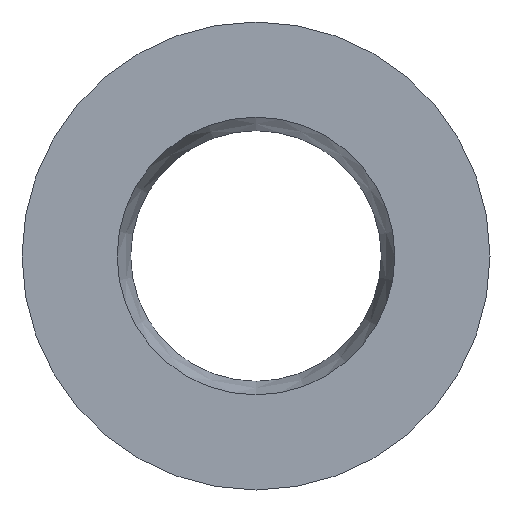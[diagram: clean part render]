
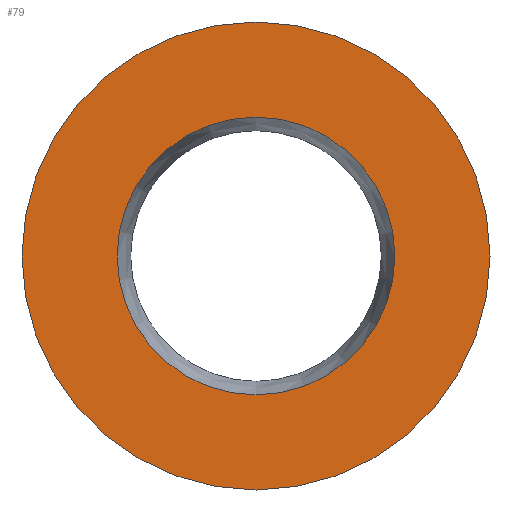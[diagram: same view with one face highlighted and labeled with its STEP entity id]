
A CAD part, front view. The second image highlights one B-rep face of the part: STEP entity #79.
In plain terms, the highlighted planar face has unit normal (0, -1, 0).
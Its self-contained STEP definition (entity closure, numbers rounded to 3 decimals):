
#79 = ADVANCED_FACE( '', ( #94, #95 ), #96, .T. );
#94 = FACE_OUTER_BOUND( '', #112, .T. );
#95 = FACE_BOUND( '', #113, .T. );
#96 = PLANE( '', #114 );
#112 = EDGE_LOOP( '', ( #138 ) );
#113 = EDGE_LOOP( '', ( #139 ) );
#114 = AXIS2_PLACEMENT_3D( '', #140, #141, #142 );
#138 = ORIENTED_EDGE( '', *, *, #153, .T. );
#139 = ORIENTED_EDGE( '', *, *, #152, .F. );
#140 = CARTESIAN_POINT( '', ( 3.5, 0., 0. ) );
#141 = DIRECTION( '', ( 0., -1., 0. ) );
#142 = DIRECTION( '', ( 0., 0., -1. ) );
#152 = EDGE_CURVE( '', #162, #162, #163, .T. );
#153 = EDGE_CURVE( '', #164, #164, #165, .T. );
#162 = VERTEX_POINT( '', #174 );
#163 = CIRCLE( '', #175, 3.5 );
#164 = VERTEX_POINT( '', #176 );
#165 = CIRCLE( '', #177, 5.9 );
#174 = CARTESIAN_POINT( '', ( 0., 0., -3.5 ) );
#175 = AXIS2_PLACEMENT_3D( '', #190, #191, #192 );
#176 = CARTESIAN_POINT( '', ( 0., 0., -5.9 ) );
#177 = AXIS2_PLACEMENT_3D( '', #193, #194, #195 );
#190 = CARTESIAN_POINT( '', ( 0., 0., 0. ) );
#191 = DIRECTION( '', ( 0., -1., 0. ) );
#192 = DIRECTION( '', ( 0., 0., -1. ) );
#193 = CARTESIAN_POINT( '', ( 0., 0., 0. ) );
#194 = DIRECTION( '', ( 0., -1., 0. ) );
#195 = DIRECTION( '', ( 0., 0., -1. ) );
